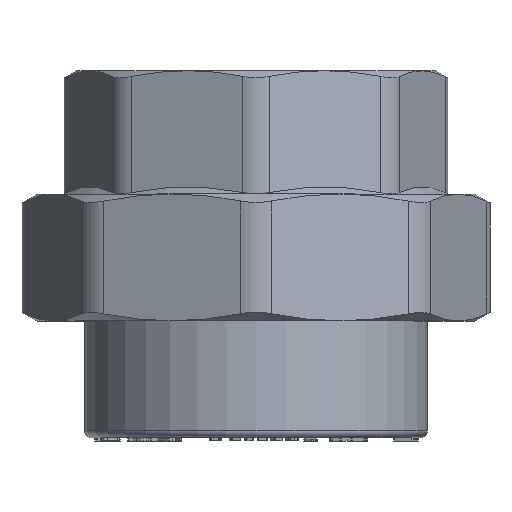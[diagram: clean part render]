
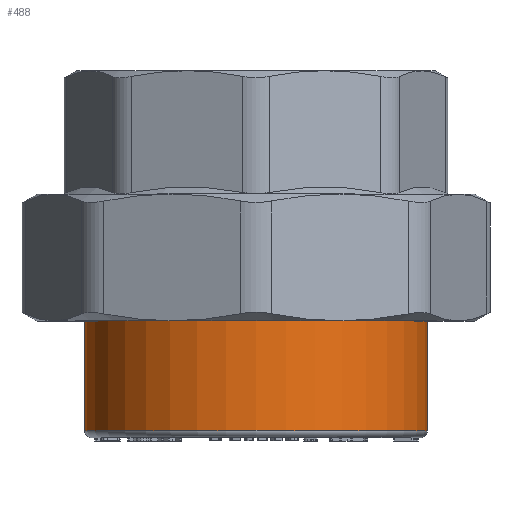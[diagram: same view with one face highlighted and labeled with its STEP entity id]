
A CAD part, top view. The second image highlights one B-rep face of the part: STEP entity #488.
In plain terms, the highlighted cylindrical face has radius 25 mm (diameter 50 mm), a full revolution.
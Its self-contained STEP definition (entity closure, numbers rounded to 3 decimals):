
#488=ADVANCED_FACE('',(#3769,#3771),#3773,.T.);
#3769=FACE_OUTER_BOUND('',#3770,.T.);
#3770=EDGE_LOOP('',(#9327));
#3771=FACE_OUTER_BOUND('',#3772,.T.);
#3772=EDGE_LOOP('',(#9328));
#3773=CYLINDRICAL_SURFACE('',#3774,25.);
#3774=AXIS2_PLACEMENT_3D('',#3775,#3776,#3777);
#3775=CARTESIAN_POINT('',(0.,0.,0.));
#3776=DIRECTION('',(0.,1.,0.));
#3777=DIRECTION('',(-1.,0.,0.));
#9327=ORIENTED_EDGE('',*,*,#13571,.F.);
#9328=ORIENTED_EDGE('',*,*,#12699,.T.);
#12699=EDGE_CURVE('',#15422,#15422,#15423,.T.);
#13571=EDGE_CURVE('',#16735,#16735,#16736,.T.);
#15422=VERTEX_POINT('',#20130);
#15423=CIRCLE('',#20131,25.);
#16735=VERTEX_POINT('',#23740);
#16736=CIRCLE('',#23741,25.);
#20130=CARTESIAN_POINT('',(-25.,1.,0.));
#20131=AXIS2_PLACEMENT_3D('',#20132,#20133,#20134);
#20132=CARTESIAN_POINT('',(0.,1.,0.));
#20133=DIRECTION('',(0.,1.,0.));
#20134=DIRECTION('',(-1.,0.,0.));
#23740=CARTESIAN_POINT('',(-25.,21.,0.));
#23741=AXIS2_PLACEMENT_3D('',#23742,#23743,#23744);
#23742=CARTESIAN_POINT('',(0.,21.,0.));
#23743=DIRECTION('',(0.,1.,0.));
#23744=DIRECTION('',(-1.,0.,0.));
